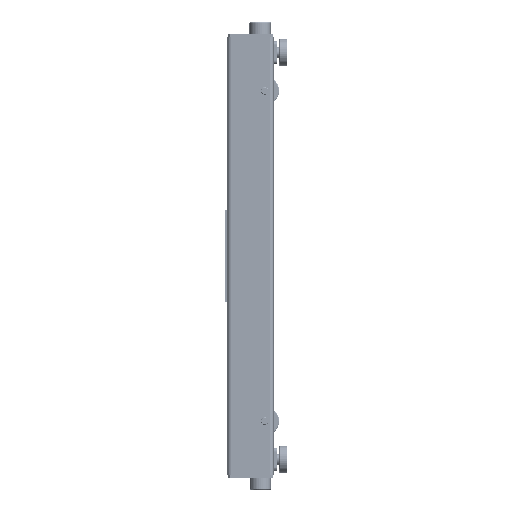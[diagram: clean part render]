
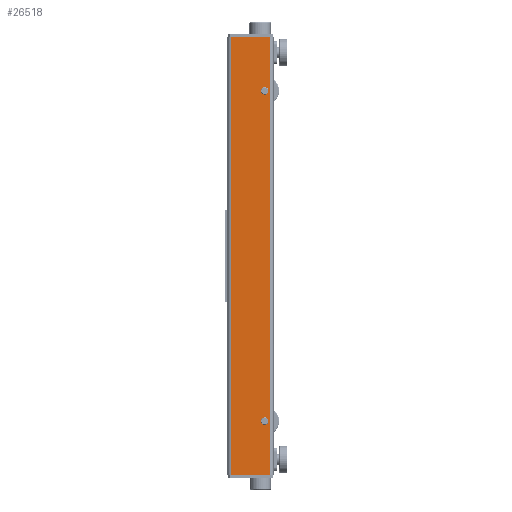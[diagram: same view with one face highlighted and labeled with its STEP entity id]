
A CAD part, left-side view. The second image highlights one B-rep face of the part: STEP entity #26518.
In plain terms, the highlighted planar face has unit normal (-1, 0, 0).
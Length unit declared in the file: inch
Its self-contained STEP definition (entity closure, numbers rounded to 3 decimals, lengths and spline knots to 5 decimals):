
#3161 = EDGE_LOOP ( 'NONE', ( #10622, #19894 ) ) ;
#3727 = EDGE_CURVE ( 'NONE', #16846, #26843, #52960, .T. ) ;
#3903 = CARTESIAN_POINT ( 'NONE',  ( 0., 0.5, 28.5625 ) ) ;
#4161 = EDGE_CURVE ( 'NONE', #27173, #17497, #38245, .T. ) ;
#5229 = AXIS2_PLACEMENT_3D ( 'NONE', #5827, #6711, #20171 ) ;
#5827 = CARTESIAN_POINT ( 'NONE',  ( 0., 1.145, 21.5005 ) ) ;
#5834 = DIRECTION ( 'NONE',  ( 0., 1., 0. ) ) ;
#6711 = DIRECTION ( 'NONE',  ( 1., 0., 0. ) ) ;
#10247 = ORIENTED_EDGE ( 'NONE', *, *, #4161, .F. ) ;
#10598 = FACE_BOUND ( 'NONE', #30744, .T. ) ;
#10622 = ORIENTED_EDGE ( 'NONE', *, *, #29529, .T. ) ;
#10665 = ORIENTED_EDGE ( 'NONE', *, *, #16725, .T. ) ;
#11177 = DIRECTION ( 'NONE',  ( 0., 1., 0. ) ) ;
#12061 = DIRECTION ( 'NONE',  ( 1., 0., 0. ) ) ;
#12307 = VERTEX_POINT ( 'NONE', #40696 ) ;
#12711 = EDGE_CURVE ( 'NONE', #12307, #21917, #53481, .T. ) ;
#14431 = LINE ( 'NONE', #41843, #40893 ) ;
#14496 = DIRECTION ( 'NONE',  ( 1., 0., 0. ) ) ;
#14536 = EDGE_CURVE ( 'NONE', #21917, #17497, #14431, .T. ) ;
#16180 = DIRECTION ( 'NONE',  ( 0., 0., -1. ) ) ;
#16247 = DIRECTION ( 'NONE',  ( 1., 0., 0. ) ) ;
#16725 = EDGE_CURVE ( 'NONE', #26843, #16846, #21086, .T. ) ;
#16846 = VERTEX_POINT ( 'NONE', #25996 ) ;
#17443 = DIRECTION ( 'NONE',  ( 0., 1., 0. ) ) ;
#17497 = VERTEX_POINT ( 'NONE', #52711 ) ;
#17841 = ORIENTED_EDGE ( 'NONE', *, *, #3727, .T. ) ;
#18898 = CARTESIAN_POINT ( 'NONE',  ( 0., 1.6375, -21.5005 ) ) ;
#19291 = DIRECTION ( 'NONE',  ( 1., 0., 0. ) ) ;
#19886 = CARTESIAN_POINT ( 'NONE',  ( 0., 1.145, -21.5005 ) ) ;
#19894 = ORIENTED_EDGE ( 'NONE', *, *, #40950, .T. ) ;
#20171 = DIRECTION ( 'NONE',  ( 0., 1., 0. ) ) ;
#21086 = CIRCLE ( 'NONE', #23935, 0.4925 ) ;
#21747 = CARTESIAN_POINT ( 'NONE',  ( 0., 0.6525, 21.5005 ) ) ;
#21917 = VERTEX_POINT ( 'NONE', #26780 ) ;
#23845 = CARTESIAN_POINT ( 'NONE',  ( 0., 0.5, 28.5625 ) ) ;
#23935 = AXIS2_PLACEMENT_3D ( 'NONE', #19886, #14496, #32689 ) ;
#25996 = CARTESIAN_POINT ( 'NONE',  ( 0., 0.6525, -21.5005 ) ) ;
#26070 = CARTESIAN_POINT ( 'NONE',  ( 0., 1.145, 21.5005 ) ) ;
#26303 = AXIS2_PLACEMENT_3D ( 'NONE', #34729, #16247, #11177 ) ;
#26340 = VECTOR ( 'NONE', #16180, 39.37008 ) ;
#26518 = ADVANCED_FACE ( 'NONE', ( #28198, #10598, #42193 ), #42490, .F. ) ;
#26780 = CARTESIAN_POINT ( 'NONE',  ( 0., 5.5, -28.5625 ) ) ;
#26843 = VERTEX_POINT ( 'NONE', #18898 ) ;
#27173 = VERTEX_POINT ( 'NONE', #3903 ) ;
#27940 = ORIENTED_EDGE ( 'NONE', *, *, #14536, .T. ) ;
#28198 = FACE_BOUND ( 'NONE', #3161, .T. ) ;
#29529 = EDGE_CURVE ( 'NONE', #57905, #45708, #54230, .T. ) ;
#30227 = VECTOR ( 'NONE', #50661, 39.37008 ) ;
#30744 = EDGE_LOOP ( 'NONE', ( #10665, #17841 ) ) ;
#30956 = CIRCLE ( 'NONE', #5229, 0.4925 ) ;
#32185 = LINE ( 'NONE', #23845, #30227 ) ;
#32628 = DIRECTION ( 'NONE',  ( 0., -1., 0. ) ) ;
#32689 = DIRECTION ( 'NONE',  ( 0., 1., 0. ) ) ;
#34729 = CARTESIAN_POINT ( 'NONE',  ( 0., 1.145, -21.5005 ) ) ;
#35008 = CARTESIAN_POINT ( 'NONE',  ( 0., 5.5, 28.5625 ) ) ;
#35761 = EDGE_CURVE ( 'NONE', #12307, #27173, #32185, .T. ) ;
#36497 = ORIENTED_EDGE ( 'NONE', *, *, #35761, .F. ) ;
#38245 = LINE ( 'NONE', #43305, #26340 ) ;
#40696 = CARTESIAN_POINT ( 'NONE',  ( 0., 5.5, 28.5625 ) ) ;
#40893 = VECTOR ( 'NONE', #32628, 39.37008 ) ;
#40950 = EDGE_CURVE ( 'NONE', #45708, #57905, #30956, .T. ) ;
#41601 = CARTESIAN_POINT ( 'NONE',  ( 0., 0.5, 28.5625 ) ) ;
#41843 = CARTESIAN_POINT ( 'NONE',  ( 0., 0.5, -28.5625 ) ) ;
#42193 = FACE_OUTER_BOUND ( 'NONE', #51090, .T. ) ;
#42490 = PLANE ( 'NONE',  #53720 ) ;
#43305 = CARTESIAN_POINT ( 'NONE',  ( 0., 0.5, 28.5625 ) ) ;
#45708 = VERTEX_POINT ( 'NONE', #21747 ) ;
#50279 = ORIENTED_EDGE ( 'NONE', *, *, #12711, .T. ) ;
#50661 = DIRECTION ( 'NONE',  ( 0., -1., 0. ) ) ;
#51090 = EDGE_LOOP ( 'NONE', ( #27940, #10247, #36497, #50279 ) ) ;
#52711 = CARTESIAN_POINT ( 'NONE',  ( 0., 0.5, -28.5625 ) ) ;
#52960 = CIRCLE ( 'NONE', #26303, 0.4925 ) ;
#53481 = LINE ( 'NONE', #35008, #57523 ) ;
#53720 = AXIS2_PLACEMENT_3D ( 'NONE', #41601, #19291, #5834 ) ;
#54077 = DIRECTION ( 'NONE',  ( 0., 0., -1. ) ) ;
#54230 = CIRCLE ( 'NONE', #55164, 0.4925 ) ;
#55164 = AXIS2_PLACEMENT_3D ( 'NONE', #26070, #12061, #17443 ) ;
#57523 = VECTOR ( 'NONE', #54077, 39.37008 ) ;
#57905 = VERTEX_POINT ( 'NONE', #58062 ) ;
#58062 = CARTESIAN_POINT ( 'NONE',  ( 0., 1.6375, 21.5005 ) ) ;
